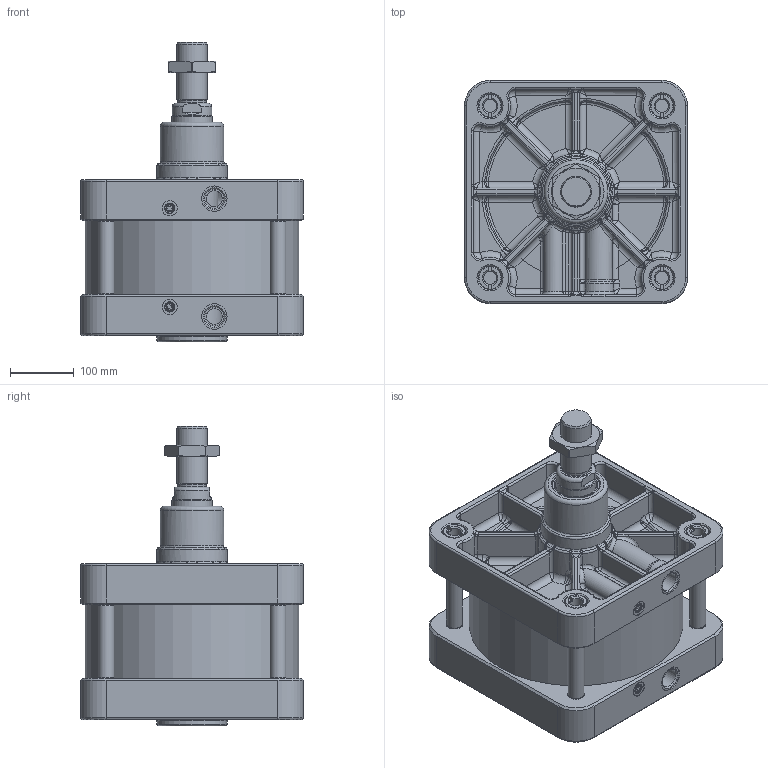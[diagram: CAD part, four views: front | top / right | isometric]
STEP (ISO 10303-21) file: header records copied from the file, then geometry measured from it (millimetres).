
FILE_DESCRIPTION(/* description */ (''),/* implementation_level */ '2;1');
FILE_NAME(/* name */ 'T:\Archivio Inventor\- 00 NUOVI STP PER SITO CON STELO CHE SI MUOVE\SERIE H - U\SERIE UDM\UDM320.---.GS.M\UDM320.025.GS.M.stp',/* time_stamp */ '2020-04-29T16:26:55+02:00',/* author */ ('carlo.corazza'),/* organization */ (''),/* preprocessor_version */ 'ST-DEVELOPER v16.5',/* originating_system */ 'Autodesk Inventor 2017',/* authorisation */ '');
FILE_SCHEMA (('AUTOMOTIVE_DESIGN { 1 0 10303 214 3 1 1 }'));
Length unit declared in the file: millimetre
Products named in the file (7): UDM320.025.GS.M; TP; STELO-025; TA; CORPO-025; TIRANTE-025; 29.2048.000.0
Assembly tree (9 placements, depth 2):
  UDM320.025.GS.M
    TP
    STELO-025
    TA
    TIRANTE-025  x4
    CORPO-025
    29.2048.000.0
Bounding box: 350 x 350 x 471 mm (x, y, z)
Volume: 11371082.2 mm3; surface area: 1532049 mm2
Topology: 9 solids, 16 shells, 1710 faces, 3937 edges, 2221 vertices
Faces by surface type: cylinder 439, bspline 432, plane 380, torus 252, cone 115, sphere 92
Full cylindrical faces by diameter (mm): 8 x2, 9 x1, 10 x1, 11 x2, 11.2 x2, 12 x2, 12.376 x1, 13.4 x4, 14 x2, 15.8 x4, 16 x6, 20.752 x8, 24 x10, 24.5 x8, 25 x6, 30.291 x2, 36 x9, 37 x8, 40 x2, 44.8 x1, 45.835 x1, 48 x1, 62 x1, 63 x1, 64 x1, 64.293 x1, 65.8 x1, 73 x1, 75 x3, 100 x1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
Entity records: 64917 total; most frequent: CARTESIAN_POINT 27888, DIRECTION 7314, ORIENTED_EDGE 7088, EDGE_CURVE 3544, AXIS2_PLACEMENT_3D 3113, VERTEX_POINT 2134, EDGE_LOOP 1966, FACE_OUTER_BOUND 1683
